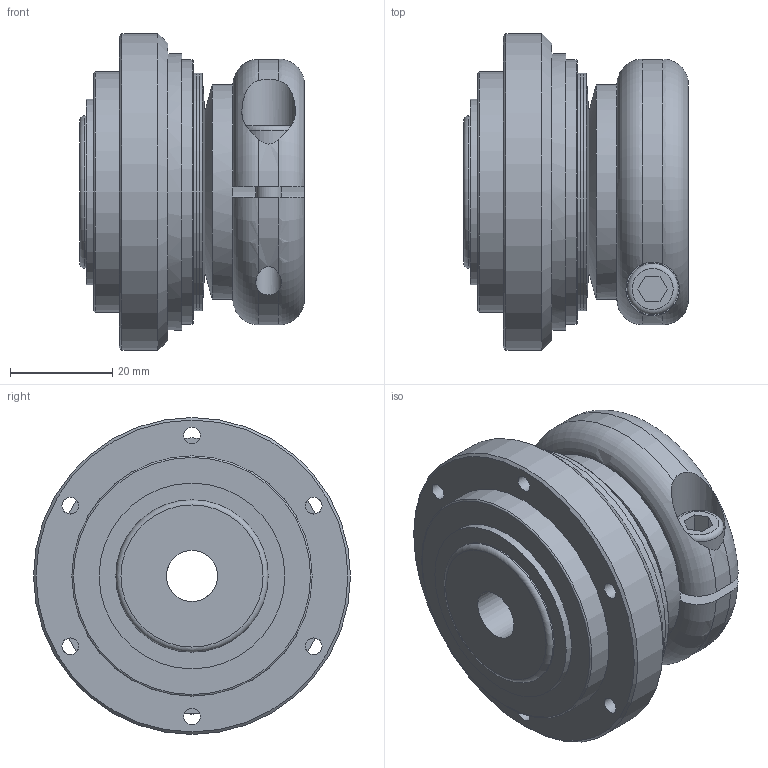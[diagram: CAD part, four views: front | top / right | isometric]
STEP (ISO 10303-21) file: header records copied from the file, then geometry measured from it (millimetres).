
FILE_DESCRIPTION(/* description */ ('Unknown'),/* implementation_level */ '2;1');
FILE_NAME(/* name */ 'SKVA-K 38',/* time_stamp */ '2025-02-12T13:18:41+01:00',/* author */ ('Unknown'),/* organization */ ('Unknown'),/* preprocessor_version */ 'ST-DEVELOPER v18.102',/* originating_system */ 'Solid Edge',/* authorisation */ 'Unknown');
FILE_SCHEMA (('AUTOMOTIVE_DESIGN {1 0 10303 214 3 1 1}'));
Length unit declared in the file: millimetre
Products named in the file (1): SKVA-K  38
Bounding box: 44 x 62 x 62 mm (x, y, z)
Volume: 83993 mm3; surface area: 17260.9 mm2
Topology: 1 solids, 1 shells, 68 faces, 173 edges, 106 vertices
Faces by surface type: plane 31, cylinder 19, cone 13, torus 5
Full cylindrical faces by diameter (mm): 3.242 x6, 5 x2, 10 x2, 10.5 x1, 36.321 x1, 42 x1, 51.7 x1, 54 x1, 62 x1
Entity records: 2361 total; most frequent: CARTESIAN_POINT 375, DIRECTION 332, ORIENTED_EDGE 256, AXIS2_PLACEMENT_3D 153, EDGE_CURVE 128, EDGE_LOOP 115, FACE_BOUND 115, VERTEX_POINT 93
